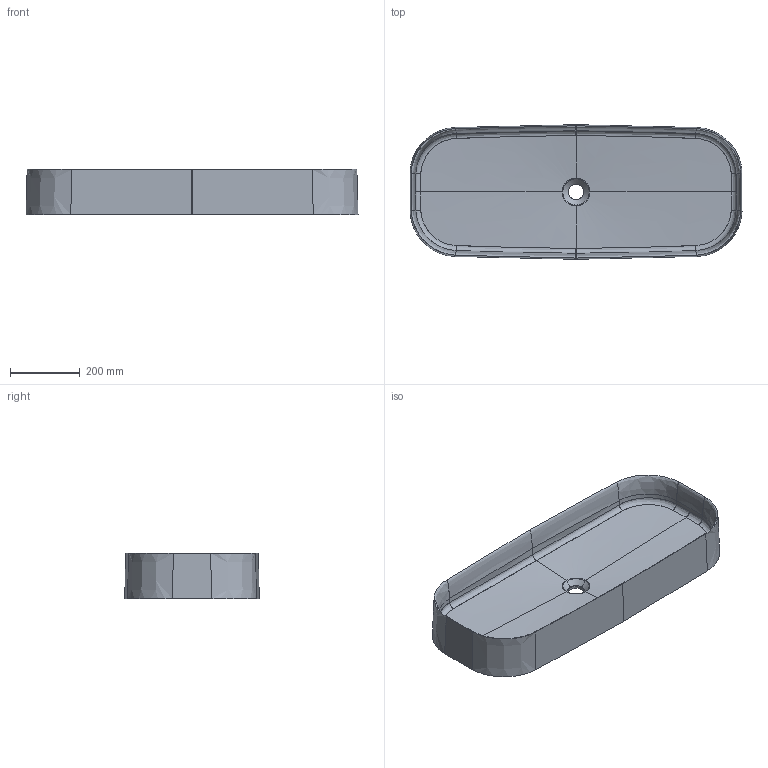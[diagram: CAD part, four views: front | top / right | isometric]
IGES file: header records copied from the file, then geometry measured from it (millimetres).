
Start section: START RECORD GO HERE.
Global section: file name: 7411_lavabo 95x38.igs; native system: DASSAULT SYSTEMES CATIA V5 R19 - www.3ds.com; preprocessor: CATIA Version 5 Release 19 SP 5 ; author: gioge; organization: LAPTOP-G94B6G74; date: 20200630.143928; units: millimetre
Bounding box: 954.13 x 386.81 x 130.03 mm (x, y, z)
Surface area: 1233469.8 mm2 (no closed solid volume)
Topology: 0 solids, 0 shells, 154 faces, 668 edges, 668 vertices
Faces by surface type: bspline 146, plane 8
